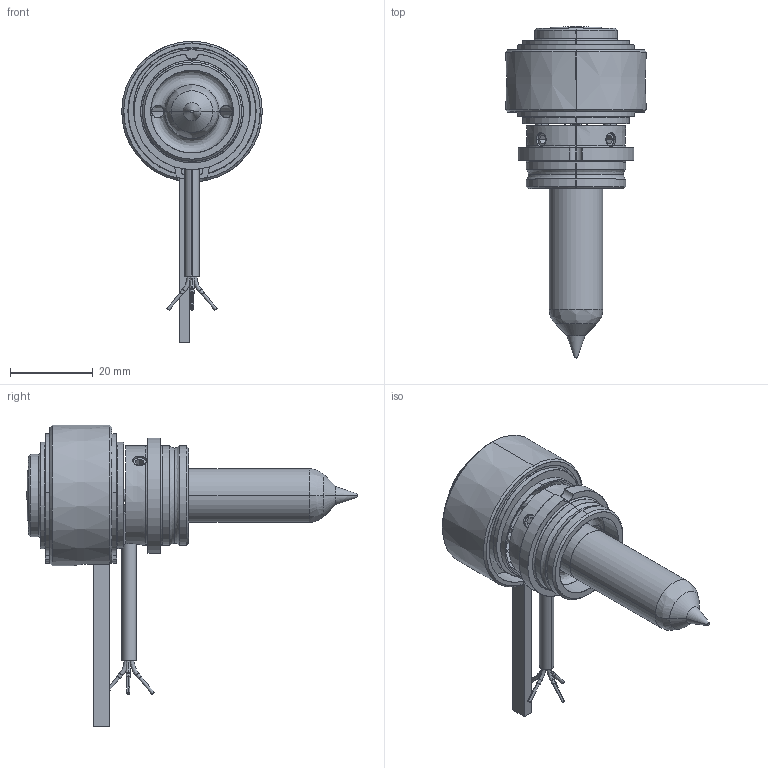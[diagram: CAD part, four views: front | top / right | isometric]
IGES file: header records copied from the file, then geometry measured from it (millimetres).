
Start section: SolidWorks IGES file using analytic representation for surfaces
Global section: file name: C:\Documents and Settings\ws-20\Desktop\TEM\UGGS2520-M-0 [Øf-0.68].IGS; native system: SolidWorks 2012; preprocessor: SolidWorks 2012; author: ws-20; date: 120516.092822; units: millimetre
Bounding box: 34 x 80.3 x 72.9 mm (x, y, z)
Surface area: 15065.9 mm2 (no closed solid volume)
Topology: 0 solids, 0 shells, 206 faces, 2881 edges, 2875 vertices
Faces by surface type: revolution 123, bspline 83
